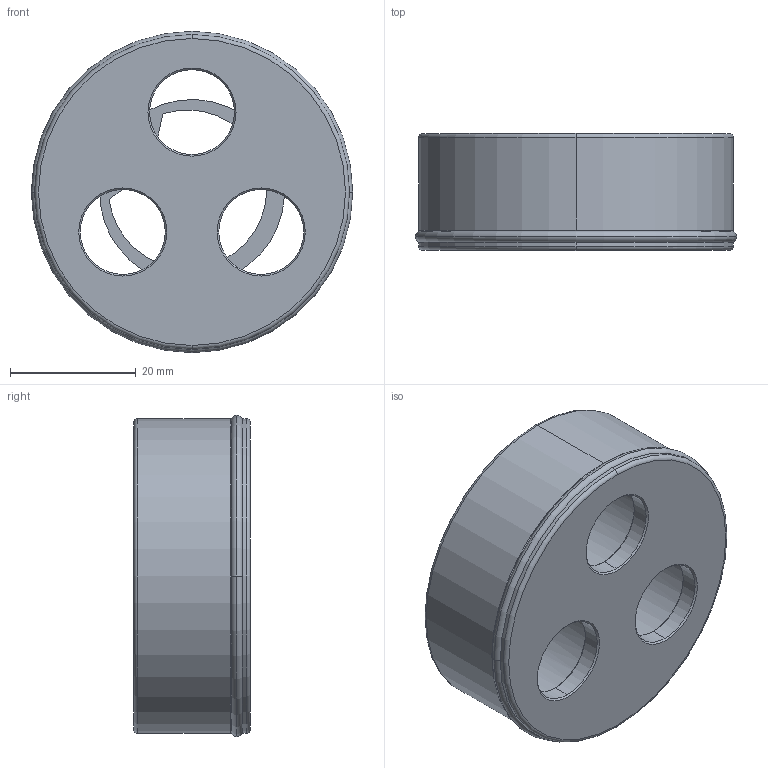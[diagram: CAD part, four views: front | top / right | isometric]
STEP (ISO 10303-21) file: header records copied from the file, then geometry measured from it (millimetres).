
FILE_DESCRIPTION (( 'STEP AP214' ), '1' );
FILE_NAME ('GK180-LockingCollar.stp', '2020-05-01T15:37:37', ( '' ), ( '' ), 'SwSTEP 2.0', 'SolidWorks 2017', '' );
FILE_SCHEMA (( 'AUTOMOTIVE_DESIGN' ));
Length unit declared in the file: inch
Products named in the file (4): O-ring-90D-.070CS-1.864ID-2.0040D_Oring-90D-.07CS-1.864ID-2.004OD; GK180-LockingCollar; RetainingRing-Internal-Standard-1.125Bore_RetainingRing-Internal-Standard-1.125Bore-E; GK180-LockingCollar_LockingCollar-GK180
Assembly tree (3 placements, depth 2):
  GK180-LockingCollar
    GK180-LockingCollar_LockingCollar-GK180
    RetainingRing-Internal-Standard-1.125Bore_RetainingRing-Internal-Standard-1.125Bore-E
    O-ring-90D-.070CS-1.864ID-2.0040D_Oring-90D-.07CS-1.864ID-2.004OD
Bounding box: 51.05 x 18.54 x 51.05 mm (x, y, z)
Volume: 19298.1 mm3; surface area: 10681.2 mm2
Topology: 3 solids, 3 shells, 105 faces, 255 edges, 157 vertices
Faces by surface type: cylinder 37, cone 30, plane 20, torus 18
Entity records: 3347 total; most frequent: DIRECTION 620, CARTESIAN_POINT 577, ORIENTED_EDGE 510, AXIS2_PLACEMENT_3D 272, EDGE_CURVE 255, CIRCLE 161, VERTEX_POINT 157, EDGE_LOOP 118
